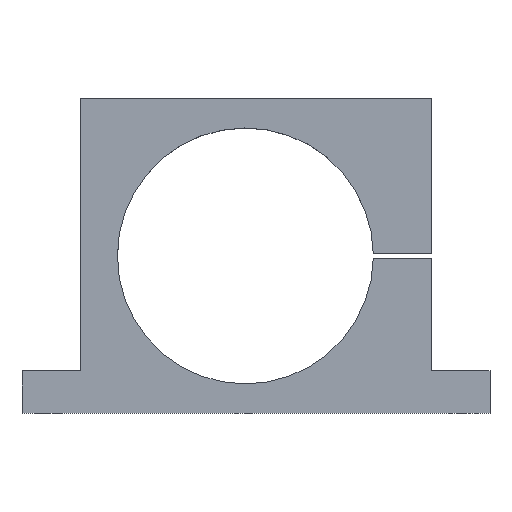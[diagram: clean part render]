
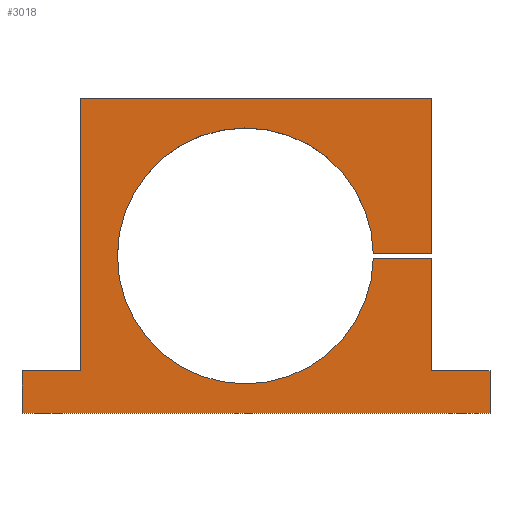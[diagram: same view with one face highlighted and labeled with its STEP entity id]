
A CAD part, top view. The second image highlights one B-rep face of the part: STEP entity #3018.
In plain terms, the highlighted planar face has unit normal (0, 0, 1).
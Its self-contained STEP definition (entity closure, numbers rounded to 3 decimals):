
#39=CIRCLE('',#3152,60.15);
#155=PLANE('',#3157);
#315=FACE_OUTER_BOUND('',#497,.T.);
#497=EDGE_LOOP('',(#2788,#2789,#2790,#2791,#2792,#2793,#2794,#2795,#2796,
#2797,#2798,#2799));
#756=LINE('',#5228,#1053);
#776=LINE('',#5307,#1073);
#778=LINE('',#5311,#1075);
#780=LINE('',#5315,#1077);
#782=LINE('',#5318,#1079);
#783=LINE('',#5322,#1080);
#785=LINE('',#5326,#1082);
#788=LINE('',#5334,#1085);
#790=LINE('',#5338,#1087);
#792=LINE('',#5342,#1089);
#794=LINE('',#5345,#1091);
#1053=VECTOR('',#3572,10.);
#1073=VECTOR('',#3650,10.);
#1075=VECTOR('',#3654,10.);
#1077=VECTOR('',#3658,10.);
#1079=VECTOR('',#3662,10.);
#1080=VECTOR('',#3667,10.);
#1082=VECTOR('',#3671,10.);
#1085=VECTOR('',#3680,10.);
#1087=VECTOR('',#3684,10.);
#1089=VECTOR('',#3688,10.);
#1091=VECTOR('',#3692,10.);
#1460=VERTEX_POINT('',#5224);
#1462=VERTEX_POINT('',#5227);
#1491=VERTEX_POINT('',#5304);
#1492=VERTEX_POINT('',#5306);
#1493=VERTEX_POINT('',#5310);
#1494=VERTEX_POINT('',#5314);
#1495=VERTEX_POINT('',#5321);
#1496=VERTEX_POINT('',#5325);
#1497=VERTEX_POINT('',#5329);
#1498=VERTEX_POINT('',#5333);
#1499=VERTEX_POINT('',#5337);
#1500=VERTEX_POINT('',#5341);
#1877=EDGE_CURVE('',#1462,#1460,#756,.T.);
#1914=EDGE_CURVE('',#1492,#1491,#776,.T.);
#1916=EDGE_CURVE('',#1493,#1492,#778,.T.);
#1918=EDGE_CURVE('',#1494,#1493,#780,.T.);
#1920=EDGE_CURVE('',#1460,#1494,#782,.T.);
#1921=EDGE_CURVE('',#1495,#1462,#783,.T.);
#1923=EDGE_CURVE('',#1496,#1495,#785,.T.);
#1925=EDGE_CURVE('',#1497,#1496,#39,.T.);
#1927=EDGE_CURVE('',#1498,#1497,#788,.T.);
#1929=EDGE_CURVE('',#1499,#1498,#790,.T.);
#1931=EDGE_CURVE('',#1500,#1499,#792,.T.);
#1933=EDGE_CURVE('',#1491,#1500,#794,.T.);
#2788=ORIENTED_EDGE('',*,*,#1933,.T.);
#2789=ORIENTED_EDGE('',*,*,#1931,.T.);
#2790=ORIENTED_EDGE('',*,*,#1929,.T.);
#2791=ORIENTED_EDGE('',*,*,#1927,.T.);
#2792=ORIENTED_EDGE('',*,*,#1925,.T.);
#2793=ORIENTED_EDGE('',*,*,#1923,.T.);
#2794=ORIENTED_EDGE('',*,*,#1921,.T.);
#2795=ORIENTED_EDGE('',*,*,#1877,.T.);
#2796=ORIENTED_EDGE('',*,*,#1920,.T.);
#2797=ORIENTED_EDGE('',*,*,#1918,.T.);
#2798=ORIENTED_EDGE('',*,*,#1916,.T.);
#2799=ORIENTED_EDGE('',*,*,#1914,.T.);
#3018=ADVANCED_FACE('',(#315),#155,.T.);
#3152=AXIS2_PLACEMENT_3D('',#5330,#3675,#3676);
#3157=AXIS2_PLACEMENT_3D('',#5346,#3693,#3694);
#3572=DIRECTION('',(-1.,0.,0.));
#3650=DIRECTION('',(1.,0.,0.));
#3654=DIRECTION('',(0.,-1.,0.));
#3658=DIRECTION('',(-1.,0.,0.));
#3662=DIRECTION('',(0.,-1.,0.));
#3667=DIRECTION('',(0.,1.,0.));
#3671=DIRECTION('',(1.,0.,0.));
#3675=DIRECTION('center_axis',(0.,0.,-1.));
#3676=DIRECTION('ref_axis',(1.,0.017,0.));
#3680=DIRECTION('',(-1.,0.,0.));
#3684=DIRECTION('',(0.,1.,0.));
#3688=DIRECTION('',(-1.,0.,0.));
#3692=DIRECTION('',(0.,1.,0.));
#3693=DIRECTION('center_axis',(0.,0.,1.));
#3694=DIRECTION('ref_axis',(1.,0.,0.));
#5224=CARTESIAN_POINT('',(27.5,148.,15.));
#5227=CARTESIAN_POINT('',(192.5,148.,15.));
#5228=CARTESIAN_POINT('',(27.5,148.,15.));
#5304=CARTESIAN_POINT('',(220.,0.,15.));
#5306=CARTESIAN_POINT('',(0.,0.,15.));
#5307=CARTESIAN_POINT('',(220.,0.,15.));
#5310=CARTESIAN_POINT('',(0.,20.,15.));
#5311=CARTESIAN_POINT('',(0.,0.,15.));
#5314=CARTESIAN_POINT('',(27.5,20.,15.));
#5315=CARTESIAN_POINT('',(0.,20.,15.));
#5318=CARTESIAN_POINT('',(27.5,20.,15.));
#5321=CARTESIAN_POINT('',(192.5,75.,15.));
#5322=CARTESIAN_POINT('',(192.5,148.,15.));
#5325=CARTESIAN_POINT('',(165.142,75.,15.));
#5326=CARTESIAN_POINT('',(192.5,75.,15.));
#5329=CARTESIAN_POINT('',(165.142,73.,15.));
#5330=CARTESIAN_POINT('Origin',(105.,74.,15.));
#5333=CARTESIAN_POINT('',(192.5,73.,15.));
#5334=CARTESIAN_POINT('',(165.142,73.,15.));
#5337=CARTESIAN_POINT('',(192.5,20.,15.));
#5338=CARTESIAN_POINT('',(192.5,73.,15.));
#5341=CARTESIAN_POINT('',(220.,20.,15.));
#5342=CARTESIAN_POINT('',(192.5,20.,15.));
#5345=CARTESIAN_POINT('',(220.,20.,15.));
#5346=CARTESIAN_POINT('Origin',(111.962,67.425,15.));
